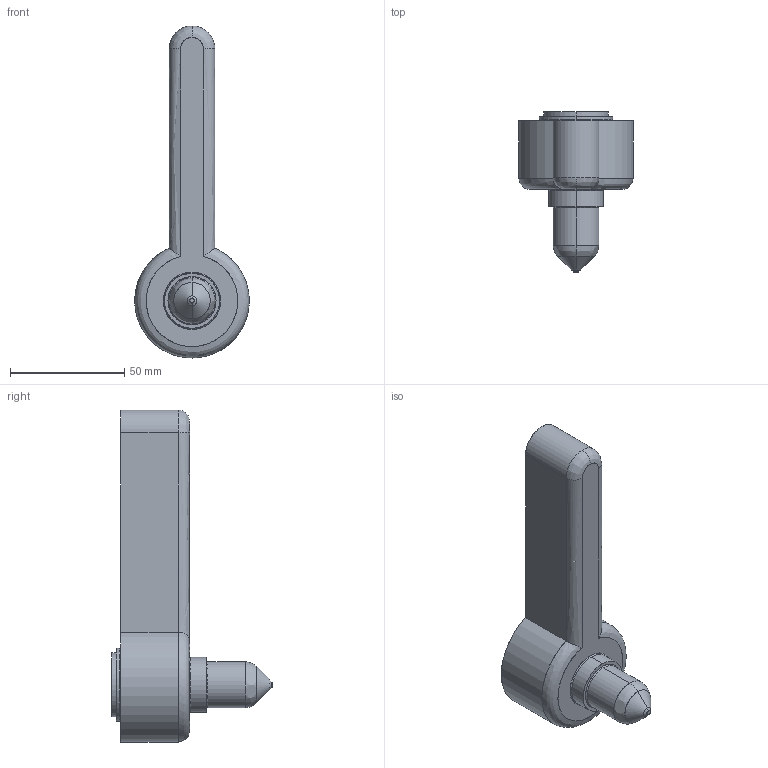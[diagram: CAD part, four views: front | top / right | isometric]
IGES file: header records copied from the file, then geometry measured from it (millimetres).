
Start section: SolidWorks IGES file using analytic representation for surfaces
Global section: file name: C:\Documents and Settings\ws-20\Desktop\TEM\Sede UGGS2510-S-1 C-36 L-68 Ød-2.0.IGS; native system: SolidWorks 2012; preprocessor: SolidWorks 2012; author: ws-20; date: 120516.093754; units: millimetre
Bounding box: 49.97 x 70.12 x 145 mm (x, y, z)
Surface area: 21117.9 mm2 (no closed solid volume)
Topology: 0 solids, 0 shells, 39 faces, 706 edges, 706 vertices
Faces by surface type: revolution 25, bspline 14
